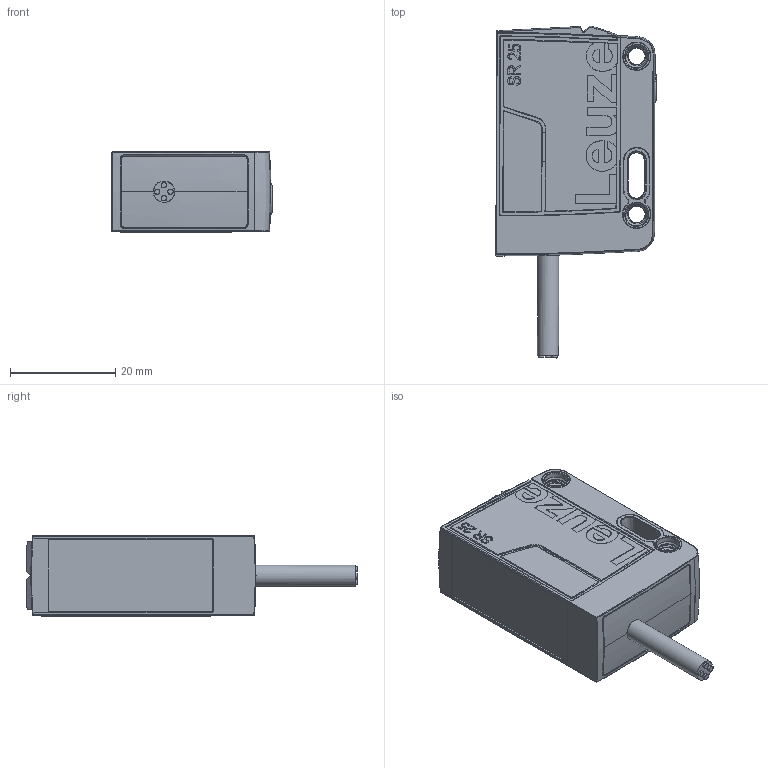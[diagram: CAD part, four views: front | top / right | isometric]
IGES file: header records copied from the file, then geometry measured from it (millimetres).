
Global section: file name: H:\lem\3DCAD_DRT25C_Kabel.igs; native system: NX V11.0; preprocessor: SIEMENS PLM Software NX 11.0; date: 20200616.135718; units: millimetre
Bounding box: 30.43 x 63.01 x 15.35 mm (x, y, z)
Surface area: 5909.7 mm2 (no closed solid volume)
Topology: 0 solids, 0 shells, 599 faces, 3376 edges, 3321 vertices
Faces by surface type: bspline 599
